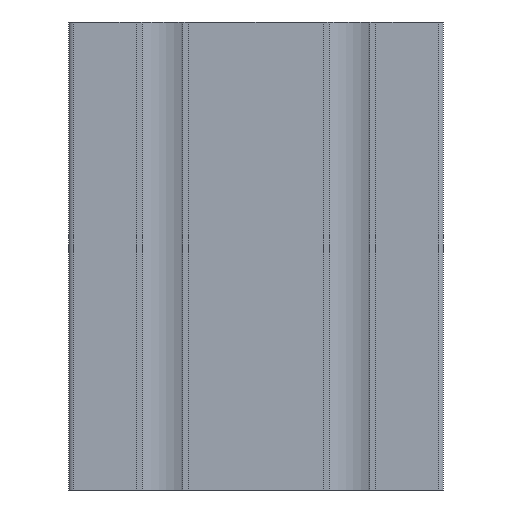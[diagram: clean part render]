
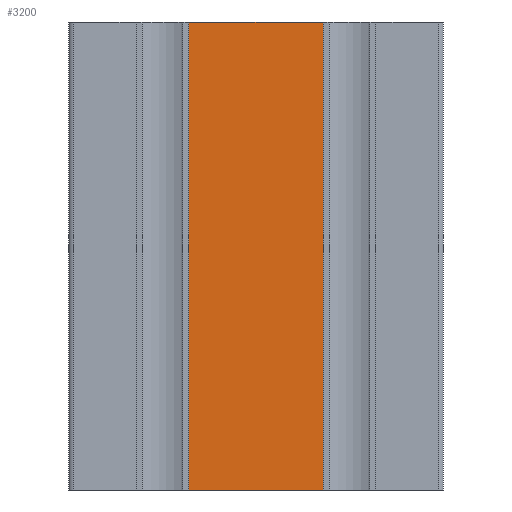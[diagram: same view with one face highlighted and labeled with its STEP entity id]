
A CAD part, front view. The second image highlights one B-rep face of the part: STEP entity #3200.
In plain terms, the highlighted planar face has unit normal (0, -1, 0).
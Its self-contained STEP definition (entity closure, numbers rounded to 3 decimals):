
#112=PLANE('',#3448);
#266=FACE_OUTER_BOUND('',#424,.T.);
#424=EDGE_LOOP('',(#2597,#2598,#2599,#2600));
#762=LINE('',#5134,#1134);
#763=LINE('',#5137,#1135);
#764=LINE('',#5139,#1136);
#765=LINE('',#5140,#1137);
#1134=VECTOR('',#4212,100.);
#1135=VECTOR('',#4215,28.8);
#1136=VECTOR('',#4216,28.8);
#1137=VECTOR('',#4217,100.);
#1563=VERTEX_POINT('',#5130);
#1564=VERTEX_POINT('',#5132);
#1565=VERTEX_POINT('',#5136);
#1566=VERTEX_POINT('',#5138);
#2002=EDGE_CURVE('',#1563,#1564,#762,.T.);
#2003=EDGE_CURVE('',#1565,#1563,#763,.T.);
#2004=EDGE_CURVE('',#1566,#1564,#764,.T.);
#2005=EDGE_CURVE('',#1565,#1566,#765,.T.);
#2597=ORIENTED_EDGE('',*,*,#2003,.T.);
#2598=ORIENTED_EDGE('',*,*,#2002,.T.);
#2599=ORIENTED_EDGE('',*,*,#2004,.F.);
#2600=ORIENTED_EDGE('',*,*,#2005,.F.);
#3200=ADVANCED_FACE('',(#266),#112,.T.);
#3448=AXIS2_PLACEMENT_3D('',#5135,#4213,#4214);
#4212=DIRECTION('',(0.,0.,1.));
#4213=DIRECTION('center_axis',(0.,-1.,0.));
#4214=DIRECTION('ref_axis',(1.,0.,0.));
#4215=DIRECTION('',(1.,0.,0.));
#4216=DIRECTION('',(1.,0.,0.));
#4217=DIRECTION('',(0.,0.,1.));
#5130=CARTESIAN_POINT('',(54.541,0.183,0.));
#5132=CARTESIAN_POINT('',(54.541,0.183,100.));
#5134=CARTESIAN_POINT('',(54.541,0.183,0.));
#5135=CARTESIAN_POINT('Origin',(25.741,0.183,0.));
#5136=CARTESIAN_POINT('',(25.741,0.183,0.));
#5137=CARTESIAN_POINT('',(25.741,0.183,0.));
#5138=CARTESIAN_POINT('',(25.741,0.183,100.));
#5139=CARTESIAN_POINT('',(25.741,0.183,100.));
#5140=CARTESIAN_POINT('',(25.741,0.183,0.));
